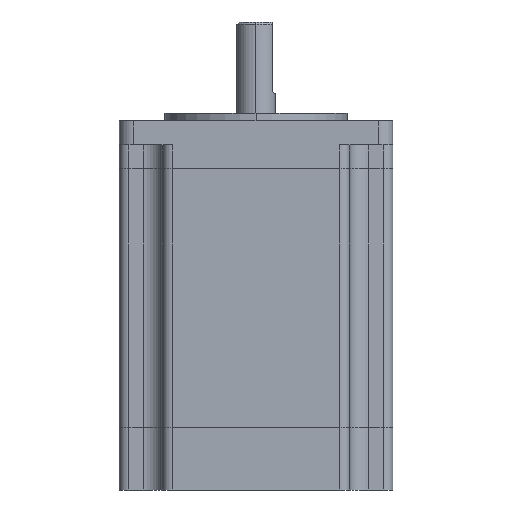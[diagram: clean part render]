
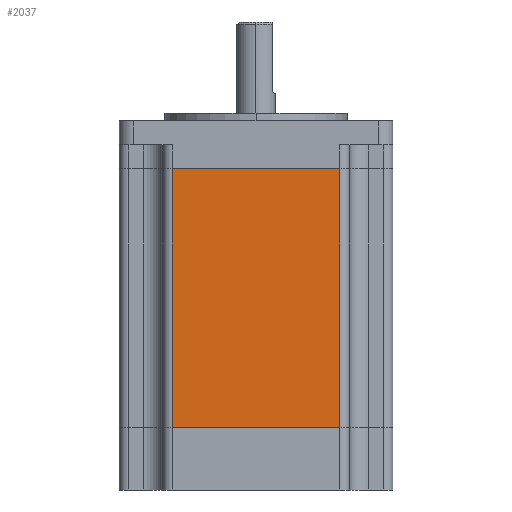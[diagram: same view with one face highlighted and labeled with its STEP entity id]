
A CAD part, left-side view. The second image highlights one B-rep face of the part: STEP entity #2037.
In plain terms, the highlighted planar face has unit normal (-1, 0, 0).
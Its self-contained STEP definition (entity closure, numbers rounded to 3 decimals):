
#1548 = EDGE_CURVE ( 'NONE', #1550, #2046, #4704, .T. ) ;
#1550 = VERTEX_POINT ( 'NONE', #4698 ) ;
#2008 = EDGE_LOOP ( 'NONE', ( #2011, #2034, #2036, #2028 ) ) ;
#2009 = EDGE_CURVE ( 'NONE', #2046, #2035, #4701, .T. ) ;
#2011 = ORIENTED_EDGE ( 'NONE', *, *, #2009, .T. ) ;
#2028 = ORIENTED_EDGE ( 'NONE', *, *, #1548, .T. ) ;
#2030 = VERTEX_POINT ( 'NONE', #4786 ) ;
#2033 = EDGE_CURVE ( 'NONE', #2030, #2035, #4781, .T. ) ;
#2034 = ORIENTED_EDGE ( 'NONE', *, *, #2033, .F. ) ;
#2035 = VERTEX_POINT ( 'NONE', #4783 ) ;
#2036 = ORIENTED_EDGE ( 'NONE', *, *, #2038, .F. ) ;
#2037 = ADVANCED_FACE ( 'NONE', ( #4774 ), #4729, .F. ) ;
#2038 = EDGE_CURVE ( 'NONE', #1550, #2030, #4769, .T. ) ;
#2046 = VERTEX_POINT ( 'NONE', #4770 ) ;
#4698 = CARTESIAN_POINT ( 'NONE',  ( -28.5, 17.5, 54. ) ) ;
#4699 = DIRECTION ( 'NONE',  ( 0., 0., -1. ) ) ;
#4700 = VECTOR ( 'NONE', #4699, 1000. ) ;
#4701 = LINE ( 'NONE', #4754, #4747 ) ;
#4704 = LINE ( 'NONE', #4723, #4700 ) ;
#4723 = CARTESIAN_POINT ( 'NONE',  ( -28.5, 17.5, 54. ) ) ;
#4729 = PLANE ( 'NONE',  #4749 ) ;
#4746 = DIRECTION ( 'NONE',  ( 0., -1., 0. ) ) ;
#4747 = VECTOR ( 'NONE', #4746, 1000. ) ;
#4749 = AXIS2_PLACEMENT_3D ( 'NONE', #4782, #4768, #4767 ) ;
#4754 = CARTESIAN_POINT ( 'NONE',  ( -28.5, -17.5, 0. ) ) ;
#4762 = DIRECTION ( 'NONE',  ( 0., -1., 0. ) ) ;
#4763 = VECTOR ( 'NONE', #4762, 1000. ) ;
#4764 = CARTESIAN_POINT ( 'NONE',  ( -28.5, -17.5, 54. ) ) ;
#4767 = DIRECTION ( 'NONE',  ( 0., 1., 0. ) ) ;
#4768 = DIRECTION ( 'NONE',  ( 1., 0., 0. ) ) ;
#4769 = LINE ( 'NONE', #4764, #4763 ) ;
#4770 = CARTESIAN_POINT ( 'NONE',  ( -28.5, 17.5, 0. ) ) ;
#4774 = FACE_OUTER_BOUND ( 'NONE', #2008, .T. ) ;
#4775 = DIRECTION ( 'NONE',  ( 0., 0., -1. ) ) ;
#4776 = VECTOR ( 'NONE', #4775, 1000. ) ;
#4777 = CARTESIAN_POINT ( 'NONE',  ( -28.5, -17.5, 54. ) ) ;
#4781 = LINE ( 'NONE', #4777, #4776 ) ;
#4782 = CARTESIAN_POINT ( 'NONE',  ( -28.5, -17.5, 54. ) ) ;
#4783 = CARTESIAN_POINT ( 'NONE',  ( -28.5, -17.5, 0. ) ) ;
#4786 = CARTESIAN_POINT ( 'NONE',  ( -28.5, -17.5, 54. ) ) ;
